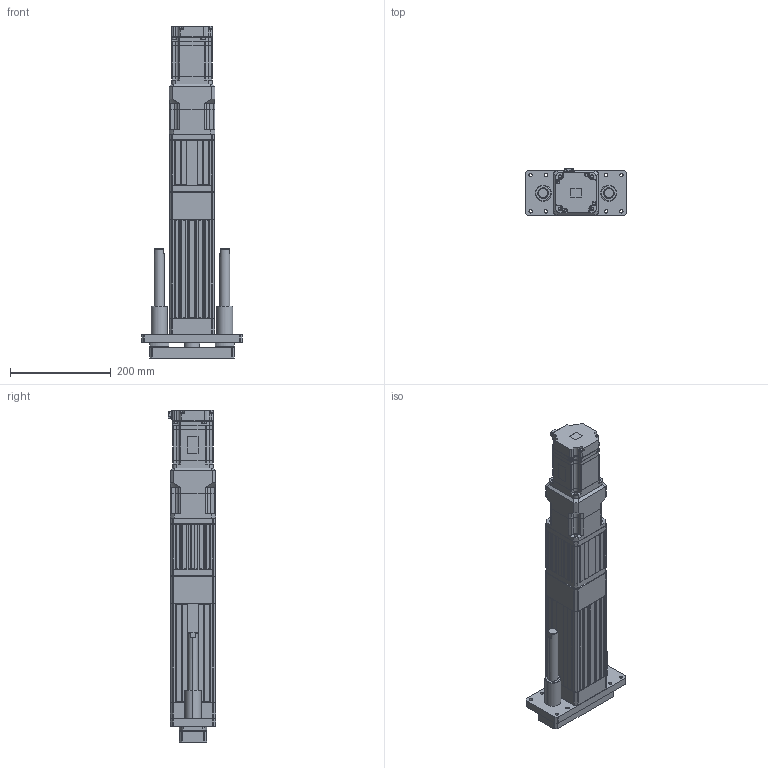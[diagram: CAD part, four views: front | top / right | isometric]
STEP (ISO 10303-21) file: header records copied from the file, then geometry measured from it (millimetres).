
FILE_DESCRIPTION (( 'STEP AP203' ), '1' );
FILE_NAME ('ANS090H-GS050-05(10)(25)-W75G05.STEP', '2019-03-18T01:46:04', ( 'user' ), ( '' ), 'SwSTEP 2.0', 'SolidWorks 2013', '' );
FILE_SCHEMA (( 'CONFIG_CONTROL_DESIGN' ));
Length unit declared in the file: millimetre
Products named in the file (5): ANS090H GS050 VER2; ANS090 ROD ST050-G; SGMJV_08A_A21; AB090-005-S1-P2[YASKAWA SGMJV08A]; ANS090H-GS050-05(10)(25)-W75G05
Assembly tree (4 placements, depth 2):
  ANS090H-GS050-05(10)(25)-W75G05
    ANS090H GS050 VER2
    ANS090 ROD ST050-G
    SGMJV_08A_A21
    AB090-005-S1-P2[YASKAWA SGMJV08A]
Bounding box: 200 x 93.8 x 658.1 mm (x, y, z)
Volume: 3080325.4 mm3; surface area: 551245.6 mm2
Topology: 3 solids, 14 shells, 1903 faces, 5056 edges, 3262 vertices
Faces by surface type: plane 1124, cylinder 581, cone 182, bspline 12, torus 4
Entity records: 59660 total; most frequent: CARTESIAN_POINT 11290, ORIENTED_EDGE 9984, DIRECTION 9947, EDGE_CURVE 5036, VECTOR 3517, LINE 3517, VERTEX_POINT 3262, AXIS2_PLACEMENT_3D 3215
